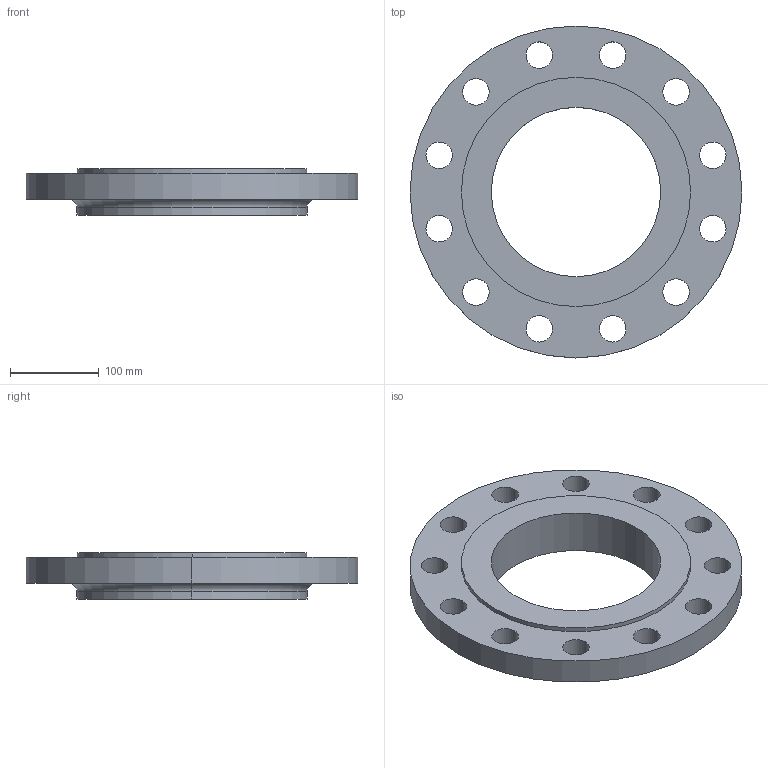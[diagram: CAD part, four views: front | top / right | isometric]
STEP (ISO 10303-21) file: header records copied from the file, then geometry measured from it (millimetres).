
FILE_DESCRIPTION (( 'STEP AP214' ), '1' );
FILE_NAME ('PN40 DN200 Type 13 - Type E Face.STEP', '2019-01-05T02:09:30', ( '' ), ( '' ), 'SwSTEP 2.0', 'SolidWorks 2019', '' );
FILE_SCHEMA (( 'AUTOMOTIVE_DESIGN' ));
Length unit declared in the file: millimetre
Products named in the file (1): PN40 DN200 Type 13 - Type E Face
Bounding box: 375 x 375 x 52 mm (x, y, z)
Volume: 2698675.4 mm3; surface area: 259950.8 mm2
Topology: 1 solids, 1 shells, 38 faces, 100 edges, 66 vertices
Faces by surface type: cylinder 32, plane 4, torus 2
Entity records: 1302 total; most frequent: DIRECTION 246, CARTESIAN_POINT 205, ORIENTED_EDGE 200, AXIS2_PLACEMENT_3D 107, EDGE_CURVE 100, CIRCLE 68, VERTEX_POINT 66, EDGE_LOOP 66
